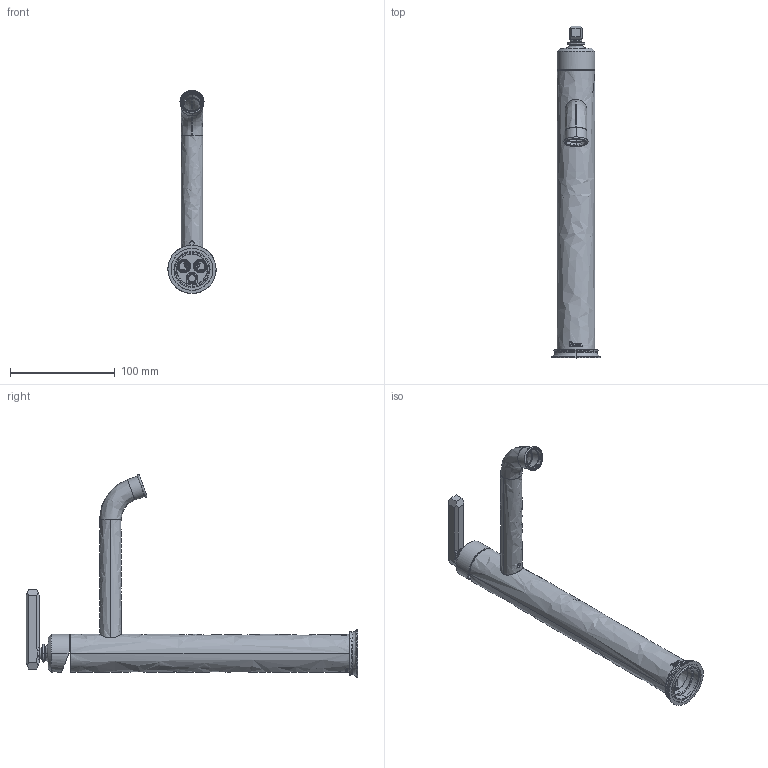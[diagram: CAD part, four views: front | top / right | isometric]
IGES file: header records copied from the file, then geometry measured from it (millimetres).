
Start section: SolidWorks IGES file using analytic representation for surfaces
Global section: file name: C:\Users\arao\Desktop\Project-Aricia\ADHOC-02083-6351 IGS files updated\sku_ap02ud1lmseries_igs.IGS; native system: SolidWorks 2025; preprocessor: SolidWorks 2025; author: arao; date: 251029.105731; units: inch
Bounding box: 45.98 x 316.5 x 193.46 mm (x, y, z)
Volume: 21616.9 mm3; surface area: 99590.3 mm2
Topology: 5 solids, 5 shells, 1055 faces, 9139 edges, 8807 vertices
Faces by surface type: bspline 1055
